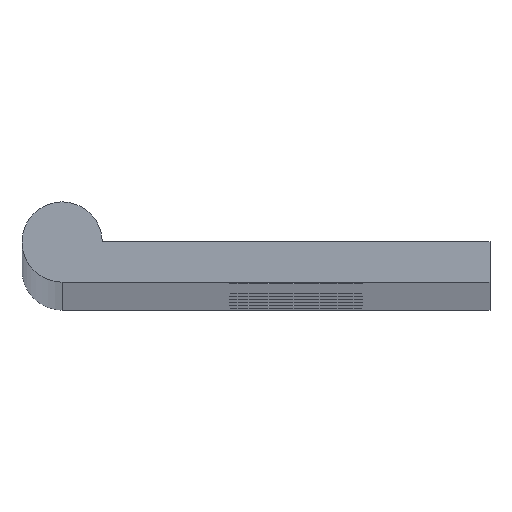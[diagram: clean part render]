
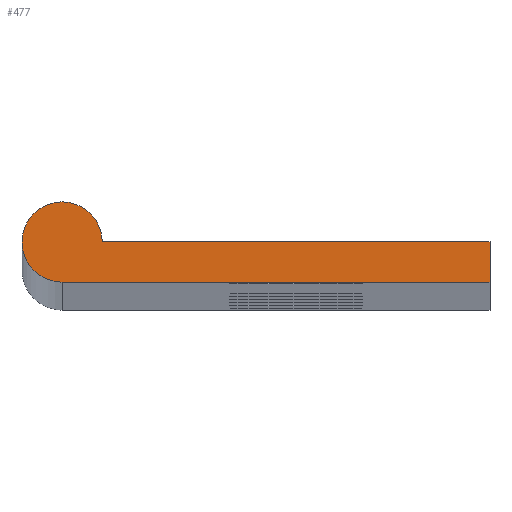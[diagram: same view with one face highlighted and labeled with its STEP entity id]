
A CAD part, top view. The second image highlights one B-rep face of the part: STEP entity #477.
In plain terms, the highlighted planar face has unit normal (0, 0, 1).
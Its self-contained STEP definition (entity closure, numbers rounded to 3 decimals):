
#21 = VERTEX_POINT ( 'NONE', #215 ) ;
#23 = ORIENTED_EDGE ( 'NONE', *, *, #403, .T. ) ;
#28 = CARTESIAN_POINT ( 'NONE',  ( 16., 0., 300. ) ) ;
#59 = DIRECTION ( 'NONE',  ( 1., 0., 0. ) ) ;
#92 = VECTOR ( 'NONE', #59, 1000. ) ;
#157 = DIRECTION ( 'NONE',  ( 0., 0., -1. ) ) ;
#166 = VECTOR ( 'NONE', #197, 1000. ) ;
#170 = PLANE ( 'NONE',  #540 ) ;
#197 = DIRECTION ( 'NONE',  ( -1., 0., 0. ) ) ;
#200 = VERTEX_POINT ( 'NONE', #391 ) ;
#203 = VECTOR ( 'NONE', #315, 1000. ) ;
#215 = CARTESIAN_POINT ( 'NONE',  ( 16., -1.5, 300. ) ) ;
#240 = ORIENTED_EDGE ( 'NONE', *, *, #338, .T. ) ;
#253 = EDGE_CURVE ( 'NONE', #200, #21, #423, .T. ) ;
#277 = CARTESIAN_POINT ( 'NONE',  ( 0., 0., 300. ) ) ;
#278 = VERTEX_POINT ( 'NONE', #389 ) ;
#284 = CARTESIAN_POINT ( 'NONE',  ( 0., 0., 300. ) ) ;
#293 = CIRCLE ( 'NONE', #362, 1.5 ) ;
#315 = DIRECTION ( 'NONE',  ( 0., 1., 0. ) ) ;
#316 = VERTEX_POINT ( 'NONE', #28 ) ;
#332 = EDGE_CURVE ( 'NONE', #316, #278, #356, .T. ) ;
#336 = CARTESIAN_POINT ( 'NONE',  ( 16., -1.5, 300. ) ) ;
#338 = EDGE_CURVE ( 'NONE', #278, #200, #293, .T. ) ;
#356 = LINE ( 'NONE', #401, #166 ) ;
#361 = DIRECTION ( 'NONE',  ( -1., 0., 0. ) ) ;
#362 = AXIS2_PLACEMENT_3D ( 'NONE', #277, #526, #361 ) ;
#366 = CARTESIAN_POINT ( 'NONE',  ( 16., 0., 300. ) ) ;
#368 = LINE ( 'NONE', #366, #203 ) ;
#372 = FACE_OUTER_BOUND ( 'NONE', #384, .T. ) ;
#375 = ORIENTED_EDGE ( 'NONE', *, *, #253, .T. ) ;
#384 = EDGE_LOOP ( 'NONE', ( #23, #446, #240, #375 ) ) ;
#389 = CARTESIAN_POINT ( 'NONE',  ( 1.5, 0., 300. ) ) ;
#391 = CARTESIAN_POINT ( 'NONE',  ( 0., -1.5, 300. ) ) ;
#401 = CARTESIAN_POINT ( 'NONE',  ( 1.5, 0., 300. ) ) ;
#403 = EDGE_CURVE ( 'NONE', #21, #316, #368, .T. ) ;
#423 = LINE ( 'NONE', #336, #92 ) ;
#446 = ORIENTED_EDGE ( 'NONE', *, *, #332, .T. ) ;
#477 = ADVANCED_FACE ( 'NONE', ( #372 ), #170, .F. ) ;
#526 = DIRECTION ( 'NONE',  ( 0., 0., 1. ) ) ;
#540 = AXIS2_PLACEMENT_3D ( 'NONE', #284, #157, #541 ) ;
#541 = DIRECTION ( 'NONE',  ( -1., 0., 0. ) ) ;
